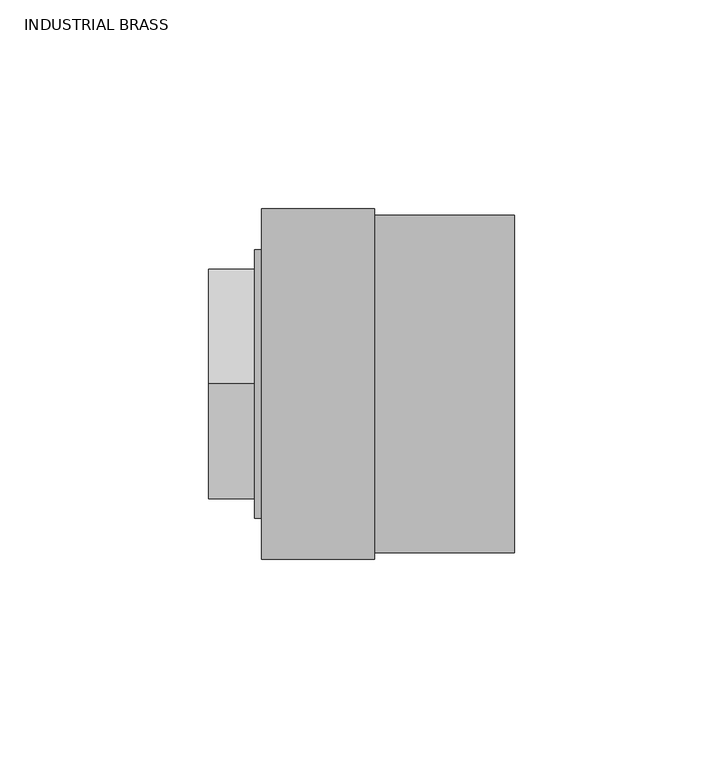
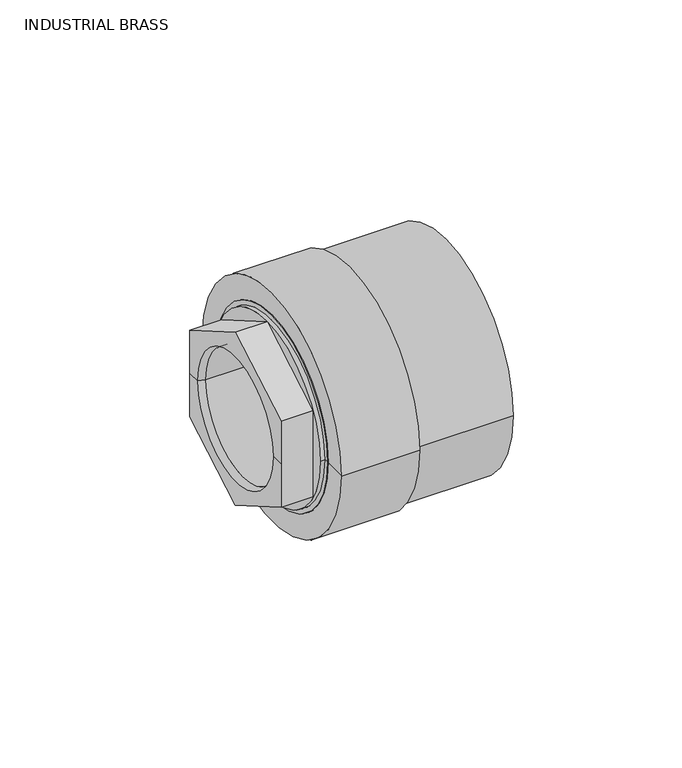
"""IFC4 building model written with IfcOpenShell, lengths in millimetres: valve geometry, Aquatherm - Transition Piece - F HEX : INDUSTRIAL BRASS."""

import ifcopenshell
import ifcopenshell.guid

model = None  # the IFC model being written
_history = None  # IfcOwnerHistory: only IFC2X3 demands one
_inside = {}  # id of a spatial element -> (the spatial element, [elements in it])
_under = {}  # id of a project, library or spatial element -> (it, [spatial elements below it])
_declared = {}  # id of a project -> (the project, [libraries it declares])
_typed = {}  # id of a type object -> (the type object, [elements of that type])
_made_of = {}  # id of a material, layer set ... -> (it, [elements and type objects made of it])


def new_model(schema):
    """Start an empty IFC model of exactly this schema.

    Asked for "IFC4X3", IfcOpenShell would pick the latest addendum, in which some entities
    have other attributes; the version numbers below select the first issue.
    IFC2X3 requires an IfcOwnerHistory on every rooted entity: one is made here for all.
    """
    global model, _history
    if schema == "IFC4X3":
        model = ifcopenshell.file(schema_version=(4, 3, 0, 0))
    else:
        model = ifcopenshell.file(schema=schema)
    _inside.clear()
    _under.clear()
    _declared.clear()
    _typed.clear()
    _made_of.clear()
    _history = None
    if model.schema == "IFC2X3":
        org = make("IfcOrganization", Name="unknown")
        user = make(
            "IfcPersonAndOrganization",
            ThePerson=make("IfcPerson", FamilyName="unknown"),
            TheOrganization=org,
        )
        app = make(
            "IfcApplication",
            ApplicationDeveloper=org,
            Version="unknown",
            ApplicationFullName="unknown",
            ApplicationIdentifier="unknown",
        )
        _history = make(
            "IfcOwnerHistory",
            OwningUser=user,
            OwningApplication=app,
            ChangeAction="ADDED",
            CreationDate=0,
        )
    return model


def make(cls, **values):
    """One entity of the class cls with the attributes given. An attribute that is None is left unset."""
    return model.create_entity(
        cls, **{name: value for name, value in values.items() if value is not None}
    )


def rooted(cls, **values):
    """An entity with a GlobalId (a new one), such as an element, a storey or a relation."""
    return make(cls, GlobalId=ifcopenshell.guid.new(), OwnerHistory=_history, **values)


def si_unit(unit_type, name, prefix=None):
    """IfcSIUnit, for example si_unit("LENGTHUNIT", "METRE", prefix="MILLI")."""
    return make("IfcSIUnit", UnitType=unit_type, Prefix=prefix, Name=name)


def assignment(units):
    """IfcUnitAssignment: the units of a project."""
    return None if units is None else make("IfcUnitAssignment", Units=units)


def point(xyz):
    """IfcCartesianPoint."""
    return None if xyz is None else make("IfcCartesianPoint", Coordinates=xyz)


def direction(xyz):
    """IfcDirection."""
    return None if xyz is None else make("IfcDirection", DirectionRatios=xyz)


def frame(location, z_axis=None, x_axis=None):
    """IfcAxis2Placement3D, a coordinate frame: its origin and axes. An axis left out is left unset."""
    return make(
        "IfcAxis2Placement3D",
        Location=point(location),
        Axis=direction(z_axis),
        RefDirection=direction(x_axis),
    )


def origin():
    """The frame at (0, 0, 0) with its axes left unset."""
    return frame((0.0, 0.0, 0.0))


def place(relative_to, where):
    """IfcLocalPlacement: puts the frame where relative to a parent placement (None: the world)."""
    return make(
        "IfcLocalPlacement", PlacementRelTo=relative_to, RelativePlacement=where
    )


def context(
    kind, dimensions, precision=None, world=None, true_north=None, identifier=None
):
    """IfcGeometricRepresentationContext, for example the 3D "Model" context."""
    return make(
        "IfcGeometricRepresentationContext",
        ContextIdentifier=identifier,
        ContextType=kind,
        CoordinateSpaceDimension=dimensions,
        Precision=precision,
        WorldCoordinateSystem=world,
        TrueNorth=true_north,
    )


def project(units=None, contexts=None):
    """IfcProject with its units and contexts."""
    return rooted(
        "IfcProject",
        Name="project",
        RepresentationContexts=contexts,
        UnitsInContext=assignment(units),
    )


def spatial(cls, under=None, at=None, **own):
    """A site, building, storey or space (cls), placed at a placement, below another one or the project."""
    s = rooted(cls, ObjectPlacement=at, **own)
    if under is not None:
        _under.setdefault(under.id(), (under, []))[1].append(s)
    return s


def polyline(points):
    """IfcPolyline through the points."""
    return make("IfcPolyline", Points=[point(p) for p in points])


def circle_curve(where, radius):
    """IfcCircle in the frame where."""
    return make("IfcCircle", Position=where, Radius=radius)


def shape(context_of_items, identifier, shape_type, items):
    """IfcShapeRepresentation: the items that make up one representation, for example the "Body"."""
    return make(
        "IfcShapeRepresentation",
        ContextOfItems=context_of_items,
        RepresentationIdentifier=identifier,
        RepresentationType=shape_type,
        Items=items,
    )


def source(mapping_origin, context_of_items, identifier, shape_type, items):
    """IfcRepresentationMap: a shape defined once, which mapped items show again and again."""
    return make(
        "IfcRepresentationMap",
        MappingOrigin=mapping_origin,
        MappedRepresentation=shape(context_of_items, identifier, shape_type, items),
    )


def transform(
    local_origin,
    x_axis=None,
    y_axis=None,
    z_axis=None,
    scale=None,
    scale2=None,
    scale3=None,
    uniform=True,
):
    """IfcCartesianTransformationOperator3D, or its non-uniform kind. x_axis, y_axis, z_axis: its Axis1, 2, 3."""
    if uniform:
        return make(
            "IfcCartesianTransformationOperator3D",
            Axis1=direction(x_axis),
            Axis2=direction(y_axis),
            LocalOrigin=point(local_origin),
            Scale=scale,
            Axis3=direction(z_axis),
        )
    return make(
        "IfcCartesianTransformationOperator3DnonUniform",
        Axis1=direction(x_axis),
        Axis2=direction(y_axis),
        LocalOrigin=point(local_origin),
        Scale=scale,
        Axis3=direction(z_axis),
        Scale2=scale2,
        Scale3=scale3,
    )


def mapped(mapping_source, mapping_target):
    """IfcMappedItem: shows the shape of a source again, moved by a transform."""
    return make(
        "IfcMappedItem", MappingSource=mapping_source, MappingTarget=mapping_target
    )


def made_of(thing, what):
    """Note that an element or type object is made of a material, layer set ...; save() writes the relation."""
    if what is not None:
        _made_of.setdefault(what.id(), (what, []))[1].append(thing)
    return thing


def element(
    cls,
    number,
    at=None,
    inside=None,
    cuts=None,
    type_object=None,
    material=None,
    context=None,
    identifier="Body",
    shape_type=None,
    held_by="IfcProductDefinitionShape",
    body=None,
    shapes=None,
    **own,
):
    """One element of the class cls, such as IfcWall. Its Tag is "e" and its number.

    at: its placement. inside: the storey or other place that contains it. cuts: it is an
    opening in that element (IfcRelVoidsElement). A single representation is given by context,
    identifier, shape_type and body (its items); several are given by shapes. held_by: the class
    of the entity that holds the representations. save() writes the other relations.
    """
    e = rooted(cls, Tag="e%d" % number, ObjectPlacement=at, **own)
    if body is not None:
        shapes = [shape(context, identifier, shape_type, body)]
    if shapes is not None:
        e.Representation = make(held_by, Representations=shapes)
    if inside is not None:
        _inside.setdefault(inside.id(), (inside, []))[1].append(e)
    if cuts is not None:
        rooted(
            "IfcRelVoidsElement", RelatingBuildingElement=cuts, RelatedOpeningElement=e
        )
    if type_object is not None:
        _typed.setdefault(type_object.id(), (type_object, []))[1].append(e)
    return made_of(e, material)


def aggregate(whole, parts):
    """IfcRelAggregates: a whole, such as a stair, and the parts it consists of."""
    return rooted("IfcRelAggregates", RelatingObject=whole, RelatedObjects=parts)


def save(model, path):
    """Write the relations noted so far, then the file.

    IfcRelAggregates (storeys below a building ...), IfcRelContainedInSpatialStructure (elements
    in a storey), IfcRelDefinesByType, IfcRelAssociatesMaterial and IfcRelDeclares: one each for
    every whole, place, type object, material and project.
    """
    for whole, parts in _under.values():
        aggregate(whole, parts)
    for where, things in _inside.values():
        rooted(
            "IfcRelContainedInSpatialStructure",
            RelatedElements=things,
            RelatingStructure=where,
        )
    for kind, things in _typed.values():
        rooted("IfcRelDefinesByType", RelatedObjects=things, RelatingType=kind)
    for what, things in _made_of.values():
        rooted("IfcRelAssociatesMaterial", RelatedObjects=things, RelatingMaterial=what)
    for by, libraries in _declared.values():
        rooted("IfcRelDeclares", RelatingContext=by, RelatedDefinitions=libraries)
    model.write(path)


def plane_surface(at):
    """IfcPlane: the flat surface through the origin of the frame at, square to its z axis."""
    return make("IfcPlane", Position=at)


def cylinder_surface(at, radius):
    """IfcCylindricalSurface: all points at the distance radius from the z axis of the frame at."""
    return make("IfcCylindricalSurface", Position=at, Radius=radius)


def revolved_surface(curve, axis_point, axis_direction):
    """IfcSurfaceOfRevolution: the curve turned about the line through axis_point along axis_direction."""
    return make(
        "IfcSurfaceOfRevolution",
        SweptCurve=make("IfcArbitraryOpenProfileDef", ProfileType="CURVE", Curve=curve),
        AxisPosition=make("IfcAxis1Placement", Location=point(axis_point), Axis=direction(axis_direction)),
    )


def advanced_brep(points, edges, surfaces, faces):
    """IfcAdvancedBrep: a solid bounded by faces that lie on surfaces and meet in shared edges.

    An edge is (start, end): straight between two places in points (the first is 0);
    or (start, end, curve); or (start, end, curve, False) where it runs against its curve.
    A face is (place in surfaces, loops), or (place, loops, False) where it looks against
    its surface's normal. A loop lists edges by number (the first is 1), with a minus sign
    where the edge is run from its end to its start. The first loop is the outer one.
    """
    corners = [point(p) for p in points]
    vertices = [make("IfcVertexPoint", VertexGeometry=c) for c in corners]
    made = []
    for start, end, *more in edges:
        made.append(
            make(
                "IfcEdgeCurve",
                EdgeStart=vertices[start],
                EdgeEnd=vertices[end],
                EdgeGeometry=more[0] if more else make("IfcPolyline", Points=[corners[start], corners[end]]),
                SameSense=more[1] if len(more) > 1 else True,
            )
        )
    hull = []
    for where, loops, *sense in faces:
        bounds = []
        for j, loop in enumerate(loops):
            ring = [make("IfcOrientedEdge", EdgeElement=made[abs(k) - 1], Orientation=k > 0) for k in loop]
            bounds.append(
                make(
                    "IfcFaceOuterBound" if j == 0 else "IfcFaceBound",
                    Bound=make("IfcEdgeLoop", EdgeList=ring),
                    Orientation=True,
                )
            )
        hull.append(make("IfcAdvancedFace", Bounds=bounds, FaceSurface=surfaces[where], SameSense=sense[0] if sense else True))
    return make("IfcAdvancedBrep", Outer=make("IfcClosedShell", CfsFaces=hull))


def industrial_brass_9fd1bf18(model_context):
    return source(origin(), model_context, "Body", "AdvancedBrep", [
        advanced_brep(
        [(9.525, -22.225, 0.0), (9.525, 22.225, 0.0), (-10.1203125, 22.225, 0.0), (-10.1203125, -22.225, 0.0), (9.525, -23.01875, 0.0), (9.525, 23.01875, 0.0), (12.7, -23.01875, 0.0), (12.7, 23.01875, 0.0), (12.7, -19.05, 0.0), (12.7, 19.05, 0.0), (15.875, -19.05, 0.0), (15.875, 19.05, 0.0), (15.875, -33.782, 0.0), (15.875, 33.782, 0.0), (0.0, -33.782, 0.0), (0.0, 33.782, 0.0), (-12.7, -23.01875, 0.0), (-12.7, 23.01875, 0.0), (-12.7, 27.559, 0.0), (-12.7, 27.559, -15.9111961), (-12.7, 0.0, -31.8223921), (-12.7, -27.559, -15.9111961), (-12.7, -27.559, 0.0), (-12.7, -27.559, 15.9111961), (-12.7, 0.0, 31.8223921), (-12.7, 27.559, 15.9111961), (0.0, -32.131, 0.0), (0.0, 32.131, 0.0), (-1.5875, -32.131, 0.0), (-1.5875, 32.131, 0.0), (-1.5875, 0.0, -31.8223921), (-1.5875, 27.559, -15.9111961), (-1.5875, 27.559, 15.9111961), (-1.5875, 0.0, 31.8223921), (-1.5875, -27.559, 15.9111961), (-1.5875, -27.559, -15.9111961)],
        [
            (0, 1, circle_curve(frame((9.525, 0.0, 0.0), z_axis=(1.0, 0.0, 0.0), x_axis=(0.0, 1.0, 0.0)), 22.225)),
            (1, 2),
            (2, 3, circle_curve(frame((-10.1203125, 0.0, 0.0), z_axis=(-1.0, 0.0, 0.0), x_axis=(0.0, 1.0, 0.0)), 22.225)),
            (3, 0),
            (1, 0, circle_curve(frame((9.525, 0.0, 0.0), z_axis=(1.0, 0.0, 0.0), x_axis=(0.0, 1.0, 0.0)), 22.225)),
            (3, 2, circle_curve(frame((-10.1203125, 0.0, 0.0), z_axis=(-1.0, 0.0, 0.0), x_axis=(0.0, 1.0, 0.0)), 22.225)),
            (0, 4),
            (4, 5, circle_curve(frame((9.525, 0.0, 0.0), z_axis=(1.0, 0.0, 0.0), x_axis=(0.0, 1.0, 0.0)), 23.01875)),
            (5, 1),
            (5, 4, circle_curve(frame((9.525, 0.0, 0.0), z_axis=(1.0, 0.0, 0.0), x_axis=(0.0, 1.0, 0.0)), 23.01875)),
            (4, 6),
            (6, 7, circle_curve(frame((12.7, 0.0, 0.0), z_axis=(1.0, 0.0, 0.0), x_axis=(0.0, 1.0, 0.0)), 23.01875)),
            (7, 5),
            (7, 6, circle_curve(frame((12.7, 0.0, 0.0), z_axis=(1.0, 0.0, 0.0), x_axis=(0.0, 1.0, 0.0)), 23.01875)),
            (6, 8),
            (8, 9, circle_curve(frame((12.7, 0.0, 0.0), z_axis=(1.0, 0.0, 0.0), x_axis=(0.0, 1.0, 0.0)), 19.05)),
            (9, 7),
            (9, 8, circle_curve(frame((12.7, 0.0, 0.0), z_axis=(1.0, 0.0, 0.0), x_axis=(0.0, 1.0, 0.0)), 19.05)),
            (8, 10),
            (10, 11, circle_curve(frame((15.875, 0.0, 0.0), z_axis=(1.0, 0.0, 0.0), x_axis=(0.0, 1.0, 0.0)), 19.05)),
            (11, 9),
            (11, 10, circle_curve(frame((15.875, 0.0, 0.0), z_axis=(1.0, 0.0, 0.0), x_axis=(0.0, 1.0, 0.0)), 19.05)),
            (10, 12),
            (12, 13, circle_curve(frame((15.875, 0.0, 0.0), z_axis=(1.0, 0.0, 0.0), x_axis=(0.0, 1.0, 0.0)), 33.782)),
            (13, 11),
            (13, 12, circle_curve(frame((15.875, 0.0, 0.0), z_axis=(1.0, 0.0, 0.0), x_axis=(0.0, 1.0, 0.0)), 33.782)),
            (12, 14),
            (14, 15, circle_curve(frame((0.0, 0.0, 0.0), z_axis=(1.0, 0.0, 0.0), x_axis=(0.0, 1.0, 0.0)), 33.782)),
            (15, 13),
            (15, 14, circle_curve(frame((0.0, 0.0, 0.0), z_axis=(1.0, 0.0, 0.0), x_axis=(0.0, 1.0, 0.0)), 33.782)),
            (16, 17, circle_curve(frame((-12.7, 0.0, 0.0), z_axis=(1.0, 0.0, 0.0), x_axis=(0.0, 1.0, 0.0)), 23.01875)),
            (17, 18),
            (18, 19),
            (19, 20),
            (20, 21),
            (21, 22),
            (22, 16),
            (17, 16, circle_curve(frame((-12.7, 0.0, 0.0), z_axis=(1.0, 0.0, 0.0), x_axis=(0.0, 1.0, 0.0)), 23.01875)),
            (22, 23),
            (23, 24),
            (24, 25),
            (25, 18),
            (2, 17),
            (16, 3),
            (14, 26),
            (26, 27, circle_curve(frame((0.0, 0.0, 0.0), z_axis=(1.0, 0.0, 0.0), x_axis=(0.0, 1.0, 0.0)), 32.131)),
            (27, 15),
            (27, 26, circle_curve(frame((0.0, 0.0, 0.0), z_axis=(1.0, 0.0, 0.0), x_axis=(0.0, 1.0, 0.0)), 32.131)),
            (26, 28),
            (28, 29, circle_curve(frame((-1.5875, 0.0, 0.0), z_axis=(1.0, 0.0, 0.0), x_axis=(0.0, 1.0, 0.0)), 32.131)),
            (29, 27),
            (29, 28, circle_curve(frame((-1.5875, 0.0, 0.0), z_axis=(1.0, 0.0, 0.0), x_axis=(0.0, 1.0, 0.0)), 32.131)),
            (30, 31),
            (31, 32),
            (32, 33),
            (33, 34),
            (34, 35),
            (35, 30),
            (35, 21),
            (20, 30),
            (34, 23),
            (33, 24),
            (32, 25),
            (31, 19),
        ],
        [
            revolved_surface(polyline([(-10.1203125, 22.225, 0.0), (9.525000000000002, 22.225, 0.0)]), (-14.5332251, 0.0, 0.0), (-1.0, 0.0, 0.0)),
            plane_surface(frame((9.525, 0.0, 0.0), z_axis=(1.0, 0.0, 0.0), x_axis=(0.0, 1.0, 0.0))),
            revolved_surface(polyline([(9.525000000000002, 23.01875, 0.0), (12.7, 23.01875, 0.0)]), (-14.5332251, 0.0, 0.0), (-1.0, 0.0, 0.0)),
            plane_surface(frame((12.7, 0.0, 0.0), z_axis=(-1.0, 0.0, 0.0), x_axis=(0.0, 1.0, 0.0))),
            revolved_surface(polyline([(12.7, 19.05, 0.0), (15.875, 19.05, 0.0)]), (-14.5332251, 0.0, 0.0), (-1.0, 0.0, 0.0)),
            plane_surface(frame((15.875, 0.0, 0.0), z_axis=(1.0, 0.0, 0.0), x_axis=(0.0, 1.0, 0.0))),
            cylinder_surface(frame((-14.5332251, 0.0, 0.0), z_axis=(-1.0, 0.0, 0.0), x_axis=(0.0, 1.0, 0.0)), 33.782),
            plane_surface(frame((-12.7, 0.0, 0.0), z_axis=(-1.0, 0.0, 0.0), x_axis=(0.0, 1.0, 0.0))),
            revolved_surface(polyline([(-12.7, 23.01875, 0.0), (-10.1203125, 22.225, 0.0)]), (-14.5332251, 0.0, 0.0), (-1.0, 0.0, 0.0)),
            plane_surface(frame((0.0, 0.0, 0.0), z_axis=(-1.0, 0.0, 0.0), x_axis=(0.0, 1.0, 0.0))),
            cylinder_surface(frame((-14.5332251, 0.0, 0.0), z_axis=(-1.0, 0.0, 0.0), x_axis=(0.0, 1.0, 0.0)), 32.131),
            plane_surface(frame((-1.5875, -27.559, -15.9111961), z_axis=(-1.0000000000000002, 0.0, 0.0), x_axis=(0.0, -0.8660254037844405, 0.499999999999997))),
            plane_surface(frame((-1.5875, 0.0, -31.8223921), z_axis=(0.0, -0.499999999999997, -0.8660254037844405), x_axis=(-1.0, 0.0, 0.0))),
            plane_surface(frame((-1.5875, -27.559, -15.9111961), z_axis=(0.0, -1.0, 0.0), x_axis=(-1.0, 0.0, 0.0))),
            plane_surface(frame((-1.5875, -27.559, 15.9111961), z_axis=(0.0, -0.5000000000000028, 0.866025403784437), x_axis=(-1.0, 0.0, 0.0))),
            plane_surface(frame((-1.5875, 0.0, 31.8223921), z_axis=(0.0, 0.49999999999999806, 0.8660254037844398), x_axis=(-1.0, 0.0, 0.0))),
            plane_surface(frame((-1.5875, 27.559, 15.9111961), z_axis=(0.0, 1.0, 0.0), x_axis=(-1.0, 0.0, 0.0))),
            plane_surface(frame((-1.5875, 27.559, -15.9111961), z_axis=(0.0, 0.5000000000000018, -0.8660254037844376), x_axis=(-1.0, 0.0, 0.0))),
        ],
        [
            (0, [[1, 2, 3, 4]]),
            (0, [[-2, 5, -4, 6]]),
            (1, [[-1, 7, 8, 9]]),
            (1, [[-5, -9, 10, -7]]),
            (2, [[-8, 11, 12, 13]]),
            (2, [[-10, -13, 14, -11]]),
            (3, [[-12, 15, 16, 17]]),
            (3, [[-14, -17, 18, -15]]),
            (4, [[-16, 19, 20, 21]]),
            (4, [[-18, -21, 22, -19]]),
            (5, [[-20, 23, 24, 25]]),
            (5, [[-22, -25, 26, -23]]),
            (6, [[-24, 27, 28, 29]]),
            (6, [[-26, -29, 30, -27]]),
            (7, [[31, 32, 33, 34, 35, 36, 37]]),
            (7, [[38, -37, 39, 40, 41, 42, -32]]),
            (8, [[-3, 43, -31, 44]]),
            (8, [[-6, -44, -38, -43]]),
            (9, [[-28, 45, 46, 47]]),
            (9, [[-30, -47, 48, -45]]),
            (10, [[-46, 49, 50, 51]]),
            (10, [[-48, -51, 52, -49]]),
            (11, [[-50, -52], [53, 54, 55, 56, 57, 58]]),
            (12, [[-58, 59, -35, 60]]),
            (13, [[-57, 61, -39, -36, -59]]),
            (14, [[-56, 62, -40, -61]]),
            (15, [[-55, 63, -41, -62]]),
            (16, [[-54, 64, -33, -42, -63]]),
            (17, [[-53, -60, -34, -64]]),
        ],
    ),
        advanced_brep(
        [(0.0, -42.037, 0.0), (0.0, 42.037, 0.0), (27.178, 42.037, 0.0), (27.178, -42.037, 0.0), (0.0, -33.782, 0.0), (0.0, 33.782, 0.0), (15.875, -33.782, 0.0), (15.875, 33.782, 0.0), (15.875, -19.05, 0.0), (15.875, 19.05, 0.0), (33.02, -19.05, 0.0), (33.02, 19.05, 0.0), (33.02, -31.496, 0.0), (33.02, 31.496, 0.0), (60.706, -31.496, 0.0), (60.706, 31.496, 0.0), (60.706, -40.4495, 0.0), (60.706, 40.4495, 0.0), (27.178, -40.4495, 0.0), (27.178, 40.4495, 0.0)],
        [
            (0, 1, circle_curve(frame((0.0, 0.0, 0.0), z_axis=(1.0, 0.0, 0.0), x_axis=(0.0, 1.0, 0.0)), 42.037)),
            (1, 2),
            (2, 3, circle_curve(frame((27.178, 0.0, 0.0), z_axis=(-1.0, 0.0, 0.0), x_axis=(0.0, 1.0, 0.0)), 42.037)),
            (3, 0),
            (1, 0, circle_curve(frame((0.0, 0.0, 0.0), z_axis=(1.0, 0.0, 0.0), x_axis=(0.0, 1.0, 0.0)), 42.037)),
            (3, 2, circle_curve(frame((27.178, 0.0, 0.0), z_axis=(-1.0, 0.0, 0.0), x_axis=(0.0, 1.0, 0.0)), 42.037)),
            (4, 5, circle_curve(frame((0.0, 0.0, 0.0), z_axis=(1.0, 0.0, 0.0), x_axis=(0.0, 1.0, 0.0)), 33.782)),
            (5, 1),
            (0, 4),
            (5, 4, circle_curve(frame((0.0, 0.0, 0.0), z_axis=(1.0, 0.0, 0.0), x_axis=(0.0, 1.0, 0.0)), 33.782)),
            (6, 7, circle_curve(frame((15.875, 0.0, 0.0), z_axis=(1.0, 0.0, 0.0), x_axis=(0.0, 1.0, 0.0)), 33.782)),
            (7, 5),
            (4, 6),
            (7, 6, circle_curve(frame((15.875, 0.0, 0.0), z_axis=(1.0, 0.0, 0.0), x_axis=(0.0, 1.0, 0.0)), 33.782)),
            (8, 9, circle_curve(frame((15.875, 0.0, 0.0), z_axis=(1.0, 0.0, 0.0), x_axis=(0.0, 1.0, 0.0)), 19.05)),
            (9, 7),
            (6, 8),
            (9, 8, circle_curve(frame((15.875, 0.0, 0.0), z_axis=(1.0, 0.0, 0.0), x_axis=(0.0, 1.0, 0.0)), 19.05)),
            (10, 11, circle_curve(frame((33.02, 0.0, 0.0), z_axis=(1.0, 0.0, 0.0), x_axis=(0.0, 1.0, 0.0)), 19.05)),
            (11, 9),
            (8, 10),
            (11, 10, circle_curve(frame((33.02, 0.0, 0.0), z_axis=(1.0, 0.0, 0.0), x_axis=(0.0, 1.0, 0.0)), 19.05)),
            (12, 13, circle_curve(frame((33.02, 0.0, 0.0), z_axis=(1.0, 0.0, 0.0), x_axis=(0.0, 1.0, 0.0)), 31.496)),
            (13, 11),
            (10, 12),
            (13, 12, circle_curve(frame((33.02, 0.0, 0.0), z_axis=(1.0, 0.0, 0.0), x_axis=(0.0, 1.0, 0.0)), 31.496)),
            (14, 15, circle_curve(frame((60.706, 0.0, 0.0), z_axis=(1.0, 0.0, 0.0), x_axis=(0.0, 1.0, 0.0)), 31.496)),
            (15, 13),
            (12, 14),
            (15, 14, circle_curve(frame((60.706, 0.0, 0.0), z_axis=(1.0, 0.0, 0.0), x_axis=(0.0, 1.0, 0.0)), 31.496)),
            (16, 17, circle_curve(frame((60.706, 0.0, 0.0), z_axis=(1.0, 0.0, 0.0), x_axis=(0.0, 1.0, 0.0)), 40.4495)),
            (17, 15),
            (14, 16),
            (17, 16, circle_curve(frame((60.706, 0.0, 0.0), z_axis=(1.0, 0.0, 0.0), x_axis=(0.0, 1.0, 0.0)), 40.4495)),
            (18, 19, circle_curve(frame((27.178, 0.0, 0.0), z_axis=(1.0, 0.0, 0.0), x_axis=(0.0, 1.0, 0.0)), 40.4495)),
            (19, 17),
            (16, 18),
            (19, 18, circle_curve(frame((27.178, 0.0, 0.0), z_axis=(1.0, 0.0, 0.0), x_axis=(0.0, 1.0, 0.0)), 40.4495)),
            (2, 19),
            (18, 3),
        ],
        [
            cylinder_surface(frame((-20.8031162, 0.0, 0.0), z_axis=(-1.0, 0.0, 0.0), x_axis=(0.0, 1.0, 0.0)), 42.037),
            plane_surface(frame((0.0, 0.0, 0.0), z_axis=(-1.0, 0.0, 0.0), x_axis=(0.0, 1.0, 0.0))),
            revolved_surface(polyline([(0.0, 33.782, 0.0), (15.875000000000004, 33.782, 0.0)]), (-20.8031162, 0.0, 0.0), (-1.0, 0.0, 0.0)),
            plane_surface(frame((15.875, 0.0, 0.0), z_axis=(-1.0, 0.0, 0.0), x_axis=(0.0, 1.0, 0.0))),
            revolved_surface(polyline([(15.875000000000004, 19.05, 0.0), (33.019999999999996, 19.05, 0.0)]), (-20.8031162, 0.0, 0.0), (-1.0, 0.0, 0.0)),
            plane_surface(frame((33.02, 0.0, 0.0), z_axis=(1.0, 0.0, 0.0), x_axis=(0.0, 1.0, 0.0))),
            revolved_surface(polyline([(33.019999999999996, 31.496, 0.0), (60.706, 31.496, 0.0)]), (-20.8031162, 0.0, 0.0), (-1.0, 0.0, 0.0)),
            plane_surface(frame((60.706, 0.0, 0.0), z_axis=(1.0, 0.0, 0.0), x_axis=(0.0, 1.0, 0.0))),
            cylinder_surface(frame((-20.8031162, 0.0, 0.0), z_axis=(-1.0, 0.0, 0.0), x_axis=(0.0, 1.0, 0.0)), 40.4495),
            plane_surface(frame((27.178, 0.0, 0.0), z_axis=(1.0, 0.0, 0.0), x_axis=(0.0, 1.0, 0.0))),
        ],
        [
            (0, [[1, 2, 3, 4]]),
            (0, [[5, -4, 6, -2]]),
            (1, [[7, 8, -1, 9]]),
            (1, [[10, -9, -5, -8]]),
            (2, [[11, 12, -7, 13]]),
            (2, [[14, -13, -10, -12]]),
            (3, [[15, 16, -11, 17]]),
            (3, [[18, -17, -14, -16]]),
            (4, [[19, 20, -15, 21]]),
            (4, [[22, -21, -18, -20]]),
            (5, [[23, 24, -19, 25]]),
            (5, [[26, -25, -22, -24]]),
            (6, [[27, 28, -23, 29]]),
            (6, [[30, -29, -26, -28]]),
            (7, [[31, 32, -27, 33]]),
            (7, [[34, -33, -30, -32]]),
            (8, [[35, 36, -31, 37]]),
            (8, [[38, -37, -34, -36]]),
            (9, [[-3, 39, -35, 40]]),
            (9, [[-6, -40, -38, -39]]),
        ],
    ),
    ])


if __name__ == "__main__":
    model = new_model("IFC4")
    model_context = context("Model", 3, world=origin())
    ifc_project = project(units=[si_unit("LENGTHUNIT", "METRE", prefix="MILLI")], contexts=[model_context])
    site = spatial("IfcSite", under=ifc_project)
    building = spatial("IfcBuilding", under=site)
    placement = place(None, origin())
    industrial_brass_shape = industrial_brass_9fd1bf18(model_context)
    element("IfcValve", 1, ObjectType="Aquatherm - Transition Piece - F HEX : INDUSTRIAL BRASS", at=placement, inside=building, context=model_context, shape_type="MappedRepresentation", body=[
        mapped(industrial_brass_shape, transform((0.0, 0.0, 0.0), x_axis=(1.0, 0.0, 0.0), y_axis=(0.0, 1.0, 0.0), z_axis=(0.0, 0.0, 1.0))),
    ])
    save(model, "model.ifc")
